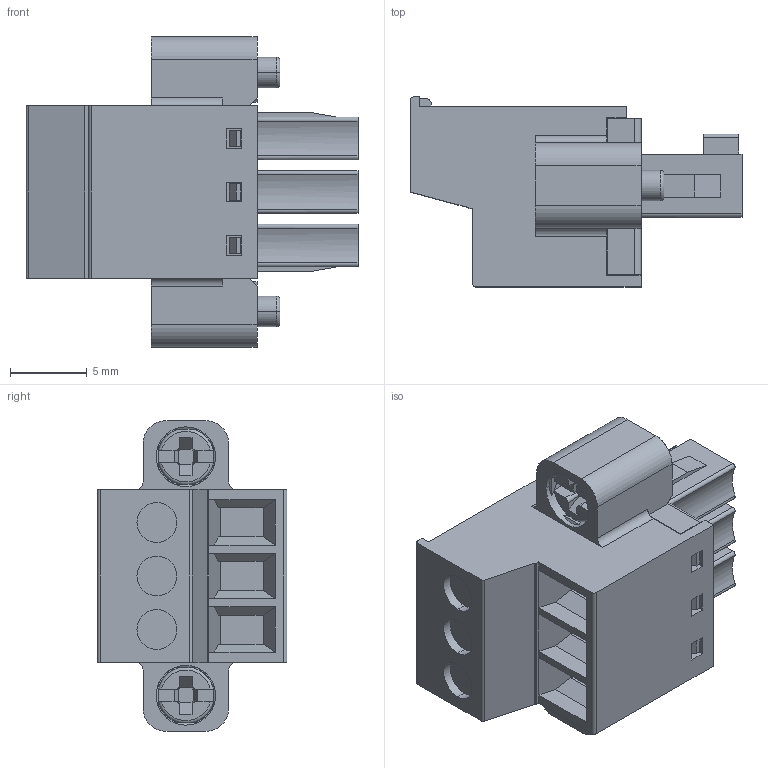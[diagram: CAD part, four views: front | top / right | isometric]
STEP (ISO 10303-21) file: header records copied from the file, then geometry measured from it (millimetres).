
FILE_DESCRIPTION((''),'2;1');
FILE_NAME('33','2019-04-10T',('zhenbing.lai'),(''),'CREO PARAMETRIC BY PTC INC, 2016260','CREO PARAMETRIC BY PTC INC, 2016260','');
FILE_SCHEMA(('CONFIG_CONTROL_DESIGN'));
Length unit declared in the file: millimetre
Products named in the file (1): 33
Bounding box: 21.7 x 12.4 x 20.3 mm (x, y, z)
Volume: 2147.5 mm3; surface area: 2225.8 mm2
Topology: 1 solids, 1 shells, 427 faces, 1154 edges, 755 vertices
Faces by surface type: plane 340, cylinder 65, cone 14, torus 8
Entity records: 13433 total; most frequent: CARTESIAN_POINT 2646, ORIENTED_EDGE 2308, DIRECTION 2111, EDGE_CURVE 1154, VECTOR 871, LINE 871, VERTEX_POINT 755, AXIS2_PLACEMENT_3D 620
